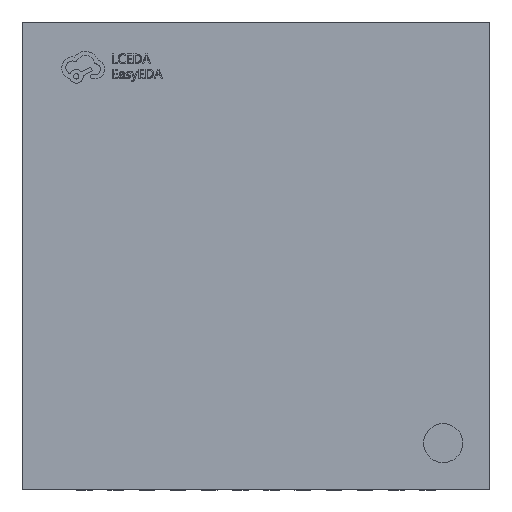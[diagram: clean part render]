
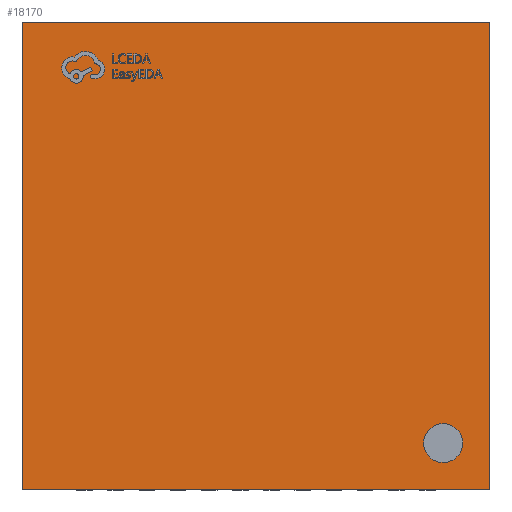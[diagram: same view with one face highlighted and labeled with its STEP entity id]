
A CAD part, top view. The second image highlights one B-rep face of the part: STEP entity #18170.
In plain terms, the highlighted planar face has unit normal (0, 0, 1).
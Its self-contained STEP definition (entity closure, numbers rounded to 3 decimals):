
#31 = VECTOR ( 'NONE', #47775, 1000. ) ;
#312 = VECTOR ( 'NONE', #38360, 1000. ) ;
#3721 = EDGE_LOOP ( 'NONE', ( #21286, #7694 ) ) ;
#3831 = CARTESIAN_POINT ( 'NONE',  ( 2.15, -2.4, 0.5 ) ) ;
#4558 = PLANE ( 'NONE',  #30359 ) ;
#4980 = VERTEX_POINT ( 'NONE', #3831 ) ;
#7694 = ORIENTED_EDGE ( 'NONE', *, *, #15632, .F. ) ;
#9351 = CARTESIAN_POINT ( 'NONE',  ( 3., -3., 0.5 ) ) ;
#9947 = FACE_BOUND ( 'NONE', #3721, .T. ) ;
#12115 = VERTEX_POINT ( 'NONE', #52546 ) ;
#12288 = EDGE_LOOP ( 'NONE', ( #19696, #52914, #19137, #52616 ) ) ;
#15266 = EDGE_CURVE ( 'NONE', #12115, #55729, #47975, .T. ) ;
#15632 = EDGE_CURVE ( 'NONE', #4980, #53220, #32366, .T. ) ;
#15976 = DIRECTION ( 'NONE',  ( 1., 0., 0. ) ) ;
#16758 = EDGE_CURVE ( 'NONE', #46597, #12115, #54991, .T. ) ;
#18170 = ADVANCED_FACE ( 'NONE', ( #9947, #33037 ), #4558, .T. ) ;
#18541 = VERTEX_POINT ( 'NONE', #22463 ) ;
#19137 = ORIENTED_EDGE ( 'NONE', *, *, #16758, .T. ) ;
#19146 = CARTESIAN_POINT ( 'NONE',  ( -3., 3., 0.5 ) ) ;
#19696 = ORIENTED_EDGE ( 'NONE', *, *, #28351, .T. ) ;
#20630 = CARTESIAN_POINT ( 'NONE',  ( 0., 0., 0.5 ) ) ;
#21286 = ORIENTED_EDGE ( 'NONE', *, *, #33036, .F. ) ;
#22463 = CARTESIAN_POINT ( 'NONE',  ( 3., 3., 0.5 ) ) ;
#23625 = DIRECTION ( 'NONE',  ( 1., 0., 0. ) ) ;
#25122 = DIRECTION ( 'NONE',  ( 0., 0., 1. ) ) ;
#27651 = DIRECTION ( 'NONE',  ( 0., 0., 1. ) ) ;
#28280 = DIRECTION ( 'NONE',  ( 1., 0., 0. ) ) ;
#28324 = AXIS2_PLACEMENT_3D ( 'NONE', #37124, #27651, #28280 ) ;
#28351 = EDGE_CURVE ( 'NONE', #55729, #18541, #52506, .T. ) ;
#30359 = AXIS2_PLACEMENT_3D ( 'NONE', #20630, #25122, #54216 ) ;
#31649 = CARTESIAN_POINT ( 'NONE',  ( 2.65, -2.4, 0.5 ) ) ;
#32366 = CIRCLE ( 'NONE', #28324, 0.25 ) ;
#33036 = EDGE_CURVE ( 'NONE', #53220, #4980, #39449, .T. ) ;
#33037 = FACE_OUTER_BOUND ( 'NONE', #12288, .T. ) ;
#33386 = CARTESIAN_POINT ( 'NONE',  ( -3., -3., 0.5 ) ) ;
#34409 = DIRECTION ( 'NONE',  ( 0., -1., 0. ) ) ;
#34593 = EDGE_CURVE ( 'NONE', #18541, #46597, #57734, .T. ) ;
#35032 = CARTESIAN_POINT ( 'NONE',  ( -3., 3., 0.5 ) ) ;
#37124 = CARTESIAN_POINT ( 'NONE',  ( 2.4, -2.4, 0.5 ) ) ;
#38360 = DIRECTION ( 'NONE',  ( -1., 0., 0. ) ) ;
#39449 = CIRCLE ( 'NONE', #42535, 0.25 ) ;
#42535 = AXIS2_PLACEMENT_3D ( 'NONE', #49875, #50798, #15976 ) ;
#46597 = VERTEX_POINT ( 'NONE', #19146 ) ;
#47579 = CARTESIAN_POINT ( 'NONE',  ( -3., 3., 0.5 ) ) ;
#47775 = DIRECTION ( 'NONE',  ( 0., 1., 0. ) ) ;
#47975 = LINE ( 'NONE', #33386, #58468 ) ;
#49875 = CARTESIAN_POINT ( 'NONE',  ( 2.4, -2.4, 0.5 ) ) ;
#50798 = DIRECTION ( 'NONE',  ( 0., 0., 1. ) ) ;
#52506 = LINE ( 'NONE', #57292, #31 ) ;
#52546 = CARTESIAN_POINT ( 'NONE',  ( -3., -3., 0.5 ) ) ;
#52616 = ORIENTED_EDGE ( 'NONE', *, *, #15266, .T. ) ;
#52914 = ORIENTED_EDGE ( 'NONE', *, *, #34593, .T. ) ;
#53220 = VERTEX_POINT ( 'NONE', #31649 ) ;
#54216 = DIRECTION ( 'NONE',  ( 1., 0., 0. ) ) ;
#54791 = VECTOR ( 'NONE', #34409, 1000. ) ;
#54991 = LINE ( 'NONE', #35032, #54791 ) ;
#55729 = VERTEX_POINT ( 'NONE', #9351 ) ;
#57292 = CARTESIAN_POINT ( 'NONE',  ( 3., 3., 0.5 ) ) ;
#57734 = LINE ( 'NONE', #47579, #312 ) ;
#58468 = VECTOR ( 'NONE', #23625, 1000. ) ;
